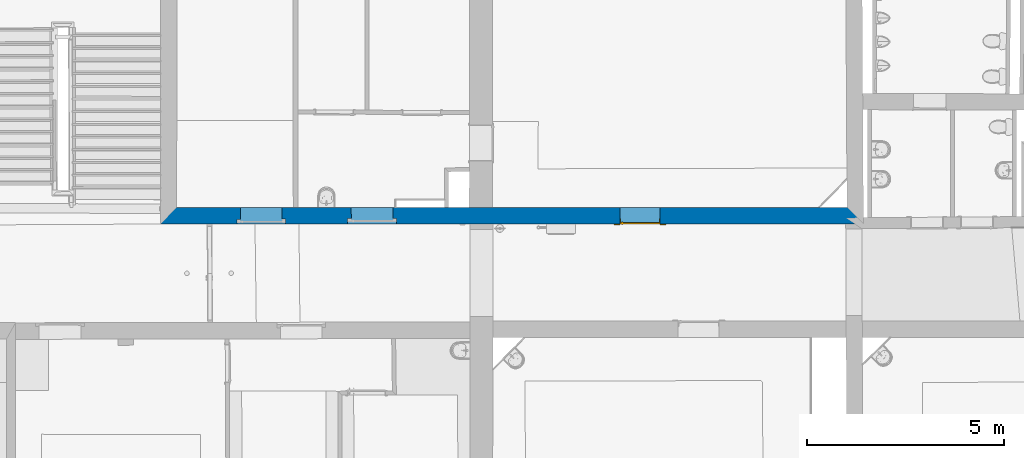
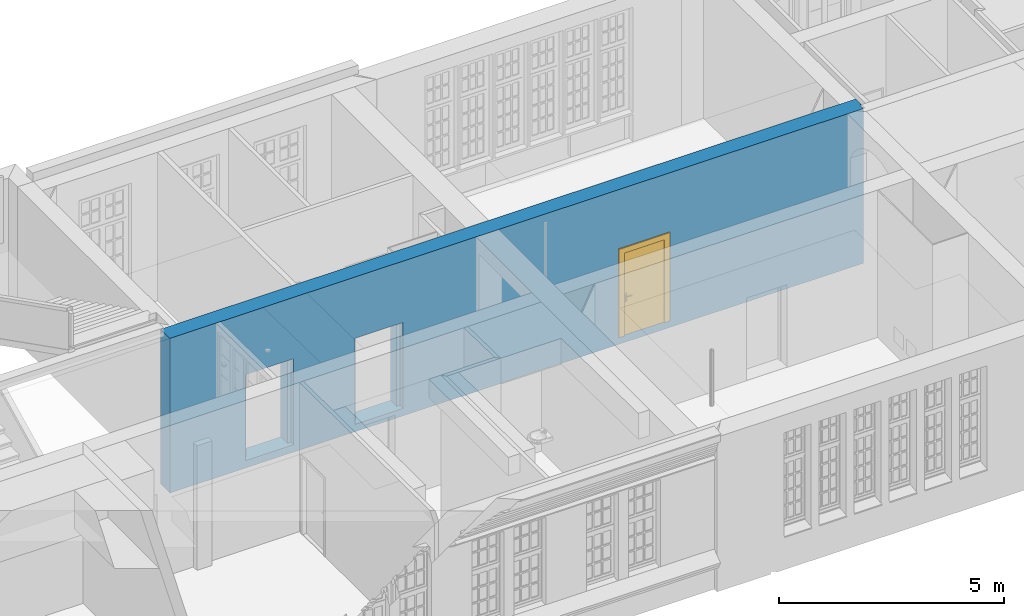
# One storey, part 44 of 90: 1 door, 1 wall, 3 openings.
"""IFC2X3 building model written with IfcOpenShell, lengths in metres."""

from ifc_helpers import new_model, entity, si_unit, converted_unit, derived_unit, money_unit, direction, frame, origin_with_axes, origin_2d_with_axis, place, context, subcontext, project, spatial, polyline, rectangle, outline, extrude, boolean, open_shell, faceted_brep, surface_model, material, type_object, element, fill, save


model = new_model("IFC2X3")

# Units and contexts
model_context = context("Model", 3, precision=1e-05, world=origin_with_axes(), true_north=direction((0.0, 1.0)))
body_context = subcontext(model_context, "Body", "Model", "MODEL_VIEW")
ifc_project = project(units=[si_unit("LENGTHUNIT", "METRE"), si_unit("AREAUNIT", "SQUARE_METRE"), si_unit("VOLUMEUNIT", "CUBIC_METRE"), converted_unit("PLANEANGLEUNIT", "DEGREE", entity("IfcPlaneAngleMeasure", 0.0174532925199), si_unit("PLANEANGLEUNIT", "RADIAN"), dimensions=[0, 0, 0, 0, 0, 0, 0]), money_unit("EUR"), converted_unit("TIMEUNIT", "Year", entity("IfcTimeMeasure", 31556926.0), si_unit("TIMEUNIT", "SECOND"), dimensions=[0, 0, 1, 0, 0, 0, 0]), si_unit("MASSUNIT", "GRAM", prefix="KILO"), si_unit("THERMODYNAMICTEMPERATUREUNIT", "DEGREE_CELSIUS"), si_unit("LUMINOUSINTENSITYUNIT", "LUMEN"), si_unit("ENERGYUNIT", "JOULE", prefix="MEGA"), derived_unit("THERMALCONDUCTANCEUNIT", [(si_unit("POWERUNIT", "WATT"), 1), (si_unit("LENGTHUNIT", "METRE"), -1), (si_unit("THERMODYNAMICTEMPERATUREUNIT", "KELVIN"), -1)]), derived_unit("SPECIFICHEATCAPACITYUNIT", [(si_unit("ENERGYUNIT", "JOULE"), 1), (si_unit("MASSUNIT", "GRAM", prefix="KILO"), -1), (si_unit("THERMODYNAMICTEMPERATUREUNIT", "KELVIN"), -1)]), derived_unit("MASSDENSITYUNIT", [(si_unit("MASSUNIT", "GRAM", prefix="KILO"), 1), (si_unit("VOLUMEUNIT", "CUBIC_METRE"), -1)])], contexts=[model_context])

# Site, building, storey
site_placement = place(None, origin_with_axes())
site = spatial("IfcSite", under=ifc_project, at=site_placement, Name="Gelände", CompositionType="ELEMENT")
building_placement = place(site_placement, origin_with_axes())
building = spatial("IfcBuilding", under=site, at=building_placement, Name="Gebäude", CompositionType="ELEMENT")
storey_placement = place(building_placement, frame((0.0, 0.0, 3.7), z_axis=(0.0, 0.0, 1.0), x_axis=(1.0, 0.0, 0.0)))
storey = spatial("IfcBuildingStorey", under=building, at=storey_placement, Name="1.OBERGESCHOSS", CompositionType="ELEMENT", Elevation=3.7)

# Wall, openings, door
ifc_material = material(Name="05_ALLGEMEIN - TRAGENDE BAUTEILE")
wall_type = type_object("IfcWallType", Name="05_ALLGEMEIN - TRAGENDE BAUTEILE 415", PredefinedType="ELEMENTEDWALL")
wall_placement = place(storey_placement, frame((-4.46533827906, 19.2762494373, -0.1), z_axis=(0.0, 0.0, 1.0), x_axis=(0.999999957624, 0.000291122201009, 0.0)))
wall = element("IfcWall", 1, at=wall_placement, inside=storey, type_object=wall_type, material=ifc_material, Name="Wand-038", ObjectType="ELEMENTEDWALL", context=body_context, shape_type="CSG", body=[
    boolean("DIFFERENCE", boolean("DIFFERENCE", extrude(outline(polyline([(-0.410000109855, 0.0), (17.4431832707, 0.0), (17.4431832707, 0.414615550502), (-0.410000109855, 0.414615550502), (-0.410000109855, 0.0)])), origin_with_axes(), (0.0, 0.0, 1.0), 4.2), faceted_brep([(-0.409696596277, 0.414615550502, 0.0), (-0.409766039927, 0.319751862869, 0.0), (-0.40959077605, 0.285260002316, 0.0), (-0.409791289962, 0.285258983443, 0.0), (-0.410000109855, 0.0, 0.0), (-0.410000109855, 0.414615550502, 0.0), (-0.409696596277, 0.414615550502, 4.2), (-0.410000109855, 0.0, 4.2), (-0.409791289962, 0.285258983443, 0.0945767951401), (-0.409766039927, 0.319751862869, 0.0945767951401), (-0.40959077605, 0.285260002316, 0.0945767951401), (-0.410000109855, 0.414615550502, 4.2)], [[[0, 1, 2, 3, 4, 5]], [[0, 6, 7, 4, 3, 8, 9, 1]], [[2, 1, 9, 10]], [[3, 2, 10, 8]], [[4, 7, 11, 5]], [[6, 0, 5, 11]], [[7, 6, 11]], [[9, 8, 10]]])), faceted_brep([(17.4022997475, 0.155036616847, 4.2), (17.4028442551, 0.0, 4.2), (17.4431832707, 0.0, 4.2), (17.4431832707, 0.414615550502, 4.2), (17.4409878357, 0.414615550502, 4.2), (17.4423609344, 0.155301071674, 4.2), (17.4028442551, 0.0, 0.0), (17.4022997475, 0.155036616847, 0.0), (17.4431832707, 0.0, 0.0), (17.4431832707, 0.414615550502, 0.0), (17.4409878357, 0.414615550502, 0.0), (17.4423609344, 0.155301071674, 0.0)], [[[0, 1, 2, 3, 4, 5]], [[6, 1, 0, 7]], [[1, 6, 8, 2]], [[2, 8, 9, 3]], [[10, 4, 3, 9]], [[5, 4, 10, 11]], [[0, 5, 11, 7]], [[11, 10, 9, 8, 6, 7]]])),
])
opening_1_placement = place(wall_placement, frame((11.7658907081, 0.0, 0.201376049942), z_axis=(0.0, 0.0, 1.0), x_axis=(1.0, 0.0, 0.0)))
opening_1 = element("IfcOpeningElement", 2, at=opening_1_placement, cuts=wall, Name="Tür-022", context=body_context, shape_type="SweptSolid", body=[
    extrude(rectangle(XDim=1.02378616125, YDim=2.250558, at=origin_2d_with_axis()), frame((0.0, 0.414615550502, 1.125279), z_axis=(0.0, 1.0, 0.0), x_axis=(1.0, 0.0, 0.0)), (0.0, 0.0, -1.0), 1.24384665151),
])
opening_2_placement = place(wall_placement, frame((4.96277781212, 0.0, 0.201), z_axis=(0.0, 0.0, 1.0), x_axis=(1.0, 0.0, 0.0)))
element("IfcOpeningElement", 3, at=opening_2_placement, cuts=wall, Name="Tür-022", context=body_context, shape_type="SweptSolid", body=[
    extrude(rectangle(XDim=1.05907517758, YDim=2.24387033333, at=origin_2d_with_axis()), frame((0.0, 0.14, 1.12193516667), z_axis=(0.0, 1.0, 0.0), x_axis=(1.0, 0.0, 0.0)), (0.0, 0.0, 1.0), 0.689231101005),
    extrude(rectangle(XDim=1.23907517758, YDim=2.33387033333, at=origin_2d_with_axis()), frame((0.0, 0.05, 1.16693516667), z_axis=(0.0, -1.0, 0.0), x_axis=(1.0, 0.0, 0.0)), (0.0, 0.0, -1.0), 0.09),
    extrude(rectangle(XDim=1.23907517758, YDim=2.33387033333, at=origin_2d_with_axis()), frame((0.0, 0.05, 1.16693516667), z_axis=(0.0, -1.0, 0.0), x_axis=(1.0, 0.0, 0.0)), (0.0, 0.0, 1.0), 0.464615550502),
])
opening_3_placement = place(wall_placement, frame((2.14649671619, 0.0, 0.201), z_axis=(0.0, 0.0, 1.0), x_axis=(1.0, 0.0, 0.0)))
element("IfcOpeningElement", 4, at=opening_3_placement, cuts=wall, Name="Tür-022", context=body_context, shape_type="SweptSolid", body=[
    extrude(rectangle(XDim=1.05907517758, YDim=2.24387033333, at=origin_2d_with_axis()), frame((0.0, 0.12, 1.12193516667), z_axis=(0.0, 1.0, 0.0), x_axis=(1.0, 0.0, 0.0)), (0.0, 0.0, 1.0), 0.709231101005),
    extrude(rectangle(XDim=1.23907517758, YDim=2.33387033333, at=origin_2d_with_axis()), frame((0.0, 0.03, 1.16693516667), z_axis=(0.0, -1.0, 0.0), x_axis=(1.0, 0.0, 0.0)), (0.0, 0.0, -1.0), 0.09),
    extrude(rectangle(XDim=1.23907517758, YDim=2.33387033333, at=origin_2d_with_axis()), frame((0.0, 0.03, 1.16693516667), z_axis=(0.0, -1.0, 0.0), x_axis=(1.0, 0.0, 0.0)), (0.0, 0.0, 1.0), 0.444615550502),
])
door_style = type_object("IfcDoorStyle", Name="Blockrahmentür 1-Fl 25", ConstructionType="NOTDEFINED", OperationType="SINGLE_SWING_LEFT", ParameterTakesPrecedence=False, Sizeable=False)
door_placement = place(opening_1_placement, frame((0.496893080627, 0.0, 0.0), z_axis=(0.0, 0.0, 1.0), x_axis=(-1.0, 0.0, 0.0)))
door = element("IfcDoor", 5, at=door_placement, inside=storey, type_object=door_style, Name="Tür-022", ObjectType="NOTDEFINED", OverallHeight=2.25056, OverallWidth=1.02379, context=body_context, shape_type="SurfaceModel", body=[
    faceted_brep([(-0.015, -0.14, 0.0), (-0.015, -0.14, 2.250558), (-0.015, -0.035, 2.250558), (-0.015, -0.035, 0.0), (0.0, -0.14, 0.0), (0.0, -0.14, 2.235558), (0.381793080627, -0.14, 2.235558), (0.496793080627, -0.14, 2.235558), (0.993786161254, -0.14, 2.235558), (0.993786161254, -0.14, 0.0), (1.00878616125, -0.14, 0.0), (1.00878616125, -0.14, 2.250558), (1.00878616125, -0.035, 2.250558), (1.00878616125, -0.035, 0.0), (0.993786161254, -0.035, 0.0), (0.993786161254, -0.035, 2.235558), (0.496793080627, -0.035, 2.235558), (0.381793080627, -0.035, 2.235558), (0.0, -0.035, 2.235558), (0.0, -0.035, 0.0)], [[[0, 1, 2, 3]], [[0, 4, 5, 6, 7, 8, 9, 10, 11, 1]], [[1, 11, 12, 2]], [[3, 2, 12, 13, 14, 15, 16, 17, 18, 19]], [[4, 0, 3, 19]], [[5, 4, 19, 18]], [[6, 5, 18, 17]], [[7, 6, 17, 16]], [[8, 7, 16, 15]], [[9, 8, 15, 14]], [[10, 9, 14, 13]], [[11, 10, 13, 12]]]),
    surface_model("IfcShellBasedSurfaceModel", [(-0.015, -0.035, 0.0), (-0.015, -0.035, 2.250558), (-0.015, 0.03, 2.250558), (-0.015, 0.03, 0.0), (1.00878616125, -0.035, 2.250558), (0.481793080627, -0.035, 2.250558), (0.396793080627, -0.035, 2.250558), (0.396793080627, 0.03, 2.250558), (0.481793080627, 0.03, 2.250558), (1.00878616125, 0.03, 2.250558), (-0.015, 0.03, 2.250558), (-0.015, -0.035, 2.250558), (1.00878616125, 0.03, 2.250558), (1.00878616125, -0.035, 0.0), (1.00878616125, 0.03, 0.0), (1.00878616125, -0.035, 2.250558)], [open_shell([[[0, 1, 2, 3]], [[4, 5, 6, 1]], [[1, 6, 7, 2]], [[7, 8, 9, 10]], [[11, 0, 3, 10]], [[4, 11, 10, 12]], [[13, 4, 12, 14]], [[15, 13, 14, 9]], [[5, 15, 9, 8]], [[6, 5, 8, 7]]])]),
    faceted_brep([(-0.16, 0.0, 0.0), (-0.16, 0.0, 2.395558), (-0.16, 0.03, 2.395558), (-0.16, 0.03, 0.0), (-0.015, 0.0, 0.0), (-0.015, 0.0, 2.250558), (1.00878616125, 0.0, 2.250558), (1.00878616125, 0.0, 0.0), (1.15378616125, 0.0, 0.0), (1.15378616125, 0.0, 2.395558), (1.15378616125, 0.03, 2.395558), (1.15378616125, 0.03, 0.0), (1.00878616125, 0.03, 0.0), (1.00878616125, 0.03, 2.250558), (-0.015, 0.03, 2.250558), (-0.015, 0.03, 0.0)], [[[0, 1, 2, 3]], [[0, 4, 5, 6, 7, 8, 9, 1]], [[1, 9, 10, 2]], [[3, 2, 10, 11, 12, 13, 14, 15]], [[4, 0, 3, 15]], [[5, 4, 15, 14]], [[6, 5, 14, 13]], [[7, 6, 13, 12]], [[8, 7, 12, 11]], [[9, 8, 11, 10]]]),
    faceted_brep([(-0.015, 0.002, 0.0), (-0.015, 0.002, 2.250558), (1.00878616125, 0.002, 2.250558), (1.00878616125, 0.002, 0.0), (-0.015, -0.035, 0.0), (-0.015, -0.035, 2.250558), (1.00878616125, -0.035, 2.250558), (1.00878616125, -0.035, 0.0)], [[[0, 1, 2, 3]], [[0, 4, 5, 1]], [[1, 5, 6, 2]], [[2, 6, 7, 3]], [[3, 7, 4, 0]], [[7, 6, 5, 4]]]),
    faceted_brep([(0.953488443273, -0.075, 1.05647213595), (0.953488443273, -0.055, 1.05647213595), (0.948786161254, -0.055, 1.058), (0.948786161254, -0.075, 1.058), (0.956394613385, -0.075, 1.05247213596), (0.956394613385, -0.055, 1.05247213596), (0.954664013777, -0.053, 1.05809016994), (0.948786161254, -0.053, 1.06), (0.944083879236, -0.055, 1.05647213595), (0.944083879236, -0.075, 1.05647213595), (0.941177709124, -0.075, 1.05247213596), (0.941177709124, -0.075, 1.04752786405), (0.944083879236, -0.075, 1.04352786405), (0.948786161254, -0.075, 1.042), (0.953488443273, -0.075, 1.04352786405), (0.956394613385, -0.075, 1.04752786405), (0.956394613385, -0.055, 1.04752786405), (0.958296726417, -0.053, 1.05309016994), (0.954664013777, -0.045, 1.05809016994), (0.948786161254, -0.045, 1.06), (0.942908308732, -0.053, 1.05809016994), (0.941177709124, -0.055, 1.05247213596), (0.941177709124, -0.055, 1.04752786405), (0.944083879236, -0.055, 1.04352786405), (0.948786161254, -0.055, 1.042), (0.953488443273, -0.055, 1.04352786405), (0.958296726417, -0.053, 1.04690983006), (0.958296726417, -0.045, 1.05309016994), (0.958296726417, -0.045, 1.04690983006), (0.954664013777, -0.045, 1.04190983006), (0.948786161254, -0.045, 1.04), (0.942908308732, -0.045, 1.04190983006), (0.939275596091, -0.045, 1.04690983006), (0.939275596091, -0.045, 1.05309016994), (0.942908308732, -0.045, 1.05809016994), (0.939275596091, -0.053, 1.05309016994), (0.939275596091, -0.053, 1.04690983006), (0.942908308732, -0.053, 1.04190983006), (0.948786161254, -0.053, 1.04), (0.954664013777, -0.053, 1.04190983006)], [[[0, 1, 2, 3]], [[4, 5, 1, 0]], [[1, 6, 7, 2]], [[3, 2, 8, 9]], [[3, 9, 10, 11, 12, 13, 14, 15, 4, 0]], [[15, 16, 5, 4]], [[5, 17, 6, 1]], [[6, 18, 19, 7]], [[2, 7, 20, 8]], [[9, 8, 21, 10]], [[10, 21, 22, 11]], [[11, 22, 23, 12]], [[12, 23, 24, 13]], [[13, 24, 25, 14]], [[14, 25, 16, 15]], [[16, 26, 17, 5]], [[17, 27, 18, 6]], [[19, 18, 27, 28, 29, 30, 31, 32, 33, 34]], [[7, 19, 34, 20]], [[8, 20, 35, 21]], [[21, 35, 36, 22]], [[22, 36, 37, 23]], [[23, 37, 38, 24]], [[24, 38, 39, 25]], [[25, 39, 26, 16]], [[26, 28, 27, 17]], [[39, 29, 28, 26]], [[38, 30, 29, 39]], [[37, 31, 30, 38]], [[36, 32, 31, 37]], [[35, 33, 32, 36]], [[20, 34, 33, 35]]]),
    faceted_brep([(0.936597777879, -0.045, 1.11759695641), (0.931986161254, -0.045, 1.11), (0.926286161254, -0.045, 1.11), (0.926286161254, -0.045, 0.89), (0.931986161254, -0.045, 0.89), (0.936597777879, -0.045, 0.882403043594), (0.9443426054, -0.045, 0.878044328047), (0.953229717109, -0.045, 0.878044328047), (0.96097454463, -0.045, 0.882403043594), (0.965586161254, -0.045, 0.89), (0.971286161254, -0.045, 0.89), (0.971286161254, -0.045, 1.11), (0.965586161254, -0.045, 1.11), (0.96097454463, -0.045, 1.11759695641), (0.953229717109, -0.045, 1.12195567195), (0.9443426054, -0.045, 1.12195567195), (0.948786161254, -0.045, 0.967425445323), (0.954161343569, -0.045, 0.965143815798), (0.95625399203, -0.045, 0.959692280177), (0.953786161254, -0.045, 0.9544), (0.953786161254, -0.045, 0.9375), (0.95232169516, -0.045, 0.933964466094), (0.948786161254, -0.045, 0.9325), (0.945250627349, -0.045, 0.933964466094), (0.943786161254, -0.045, 0.9375), (0.943786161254, -0.045, 0.9544), (0.941318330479, -0.045, 0.959692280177), (0.943410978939, -0.045, 0.965143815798), (0.936597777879, -0.035, 1.11759695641), (0.931986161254, -0.035, 1.11), (0.926286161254, -0.035, 1.11), (0.926286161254, -0.035, 0.89), (0.931986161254, -0.035, 0.89), (0.936597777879, -0.035, 0.882403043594), (0.9443426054, -0.035, 0.878044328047), (0.953229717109, -0.035, 0.878044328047), (0.96097454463, -0.035, 0.882403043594), (0.965586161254, -0.035, 0.89), (0.971286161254, -0.035, 0.89), (0.971286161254, -0.035, 1.11), (0.965586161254, -0.035, 1.11), (0.96097454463, -0.035, 1.11759695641), (0.953229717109, -0.035, 1.12195567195), (0.9443426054, -0.035, 1.12195567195), (0.948786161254, -0.035, 0.967425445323), (0.954161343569, -0.035, 0.965143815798), (0.95625399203, -0.035, 0.959692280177), (0.953786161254, -0.035, 0.9544), (0.953786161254, -0.035, 0.9375), (0.95232169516, -0.035, 0.933964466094), (0.948786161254, -0.035, 0.9325), (0.945250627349, -0.035, 0.933964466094), (0.943786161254, -0.035, 0.9375), (0.943786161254, -0.035, 0.9544), (0.941318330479, -0.035, 0.959692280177), (0.943410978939, -0.035, 0.965143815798)], [[[0, 1, 2, 3, 4, 5, 6, 7, 8, 9, 10, 11, 12, 13, 14, 15], [16, 17, 18, 19, 20, 21, 22, 23, 24, 25, 26, 27]], [[0, 28, 29, 1]], [[1, 29, 30, 2]], [[2, 30, 31, 3]], [[3, 31, 32, 4]], [[4, 32, 33, 5]], [[5, 33, 34, 6]], [[6, 34, 35, 7]], [[7, 35, 36, 8]], [[8, 36, 37, 9]], [[9, 37, 38, 10]], [[10, 38, 39, 11]], [[11, 39, 40, 12]], [[12, 40, 41, 13]], [[13, 41, 42, 14]], [[14, 42, 43, 15]], [[15, 43, 28, 0]], [[16, 44, 45, 17]], [[17, 45, 46, 18]], [[18, 46, 47, 19]], [[47, 48, 20, 19]], [[21, 20, 48, 49]], [[22, 21, 49, 50]], [[23, 22, 50, 51]], [[24, 23, 51, 52]], [[25, 24, 52, 53]], [[25, 53, 54, 26]], [[26, 54, 55, 27]], [[27, 55, 44, 16]], [[32, 31, 30, 29, 28, 43, 42, 41, 40, 39, 38, 37, 36, 35, 34, 33], [46, 45, 44, 55, 54, 53, 52, 51, 50, 49, 48, 47]]]),
    faceted_brep([(0.834533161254, -0.075, 1.057158), (0.834531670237, -0.075, 1.05719388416), (0.834531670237, -0.09, 1.05719388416), (0.834533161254, -0.09, 1.057158), (0.861560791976, -0.075, 1.06432652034), (0.889388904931, -0.075, 1.06706086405), (0.917294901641, -0.075, 1.06529002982), (0.944554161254, -0.075, 1.05906), (0.950956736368, -0.075, 1.05976125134), (0.956458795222, -0.075, 1.05641280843), (0.958777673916, -0.075, 1.05040385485), (0.956951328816, -0.075, 1.04422735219), (0.951737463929, -0.075, 1.04044577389), (0.945299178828, -0.075, 1.04062800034), (0.940307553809, -0.075, 1.04469843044), (0.940328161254, -0.075, 1.044666), (0.915039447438, -0.075, 1.05019878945), (0.8891969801, -0.075, 1.05171460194), (0.863434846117, -0.075, 1.04917624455), (0.838385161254, -0.075, 1.042646), (0.832841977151, -0.075, 1.04356849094), (0.829480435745, -0.075, 1.04807159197), (0.83017200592, -0.075, 1.05364829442), (0.83017200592, -0.09, 1.05364829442), (0.829480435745, -0.09, 1.04807159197), (0.832841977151, -0.09, 1.04356849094), (0.838385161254, -0.09, 1.042646), (0.863434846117, -0.09, 1.04917624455), (0.8891969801, -0.09, 1.05171460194), (0.915039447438, -0.09, 1.05019878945), (0.940328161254, -0.09, 1.044666), (0.940307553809, -0.09, 1.04469843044), (0.945299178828, -0.09, 1.04062800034), (0.951737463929, -0.09, 1.04044577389), (0.956951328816, -0.09, 1.04422735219), (0.958777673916, -0.09, 1.05040385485), (0.956458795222, -0.09, 1.05641280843), (0.950956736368, -0.09, 1.05976125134), (0.944554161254, -0.09, 1.05906), (0.917294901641, -0.09, 1.06529002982), (0.889388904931, -0.09, 1.06706086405), (0.861560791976, -0.09, 1.06432652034)], [[[0, 1, 2, 3]], [[0, 4, 5, 6, 7, 8, 9, 10, 11, 12, 13, 14, 15, 16, 17, 18, 19, 20, 21, 22, 1]], [[1, 22, 23, 2]], [[3, 2, 23, 24, 25, 26, 27, 28, 29, 30, 31, 32, 33, 34, 35, 36, 37, 38, 39, 40, 41]], [[4, 0, 3, 41]], [[5, 4, 41, 40]], [[6, 5, 40, 39]], [[7, 6, 39, 38]], [[8, 7, 38, 37]], [[9, 8, 37, 36]], [[10, 9, 36, 35]], [[11, 10, 35, 34]], [[12, 11, 34, 33]], [[13, 12, 33, 32]], [[14, 13, 32, 31]], [[15, 14, 31, 30]], [[16, 15, 30, 29]], [[17, 16, 29, 28]], [[18, 17, 28, 27]], [[19, 18, 27, 26]], [[20, 19, 26, 25]], [[21, 20, 25, 24]], [[22, 21, 24, 23]]]),
    faceted_brep([(0.953488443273, 0.042, 1.05647213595), (0.948786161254, 0.042, 1.058), (0.948786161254, 0.022, 1.058), (0.953488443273, 0.022, 1.05647213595), (0.956394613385, 0.042, 1.05247213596), (0.956394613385, 0.042, 1.04752786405), (0.953488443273, 0.042, 1.04352786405), (0.948786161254, 0.042, 1.042), (0.944083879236, 0.042, 1.04352786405), (0.941177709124, 0.042, 1.04752786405), (0.941177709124, 0.042, 1.05247213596), (0.944083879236, 0.042, 1.05647213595), (0.944083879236, 0.022, 1.05647213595), (0.948786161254, 0.02, 1.06), (0.954664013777, 0.02, 1.05809016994), (0.956394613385, 0.022, 1.05247213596), (0.956394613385, 0.022, 1.04752786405), (0.953488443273, 0.022, 1.04352786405), (0.948786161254, 0.022, 1.042), (0.944083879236, 0.022, 1.04352786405), (0.941177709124, 0.022, 1.04752786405), (0.941177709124, 0.022, 1.05247213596), (0.942908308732, 0.02, 1.05809016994), (0.948786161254, 0.012, 1.06), (0.954664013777, 0.012, 1.05809016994), (0.958296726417, 0.02, 1.05309016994), (0.958296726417, 0.02, 1.04690983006), (0.954664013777, 0.02, 1.04190983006), (0.948786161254, 0.02, 1.04), (0.942908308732, 0.02, 1.04190983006), (0.939275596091, 0.02, 1.04690983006), (0.939275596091, 0.02, 1.05309016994), (0.942908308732, 0.012, 1.05809016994), (0.939275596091, 0.012, 1.05309016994), (0.939275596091, 0.012, 1.04690983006), (0.942908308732, 0.012, 1.04190983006), (0.948786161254, 0.012, 1.04), (0.954664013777, 0.012, 1.04190983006), (0.958296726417, 0.012, 1.04690983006), (0.958296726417, 0.012, 1.05309016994)], [[[0, 1, 2, 3]], [[1, 0, 4, 5, 6, 7, 8, 9, 10, 11]], [[1, 11, 12, 2]], [[3, 2, 13, 14]], [[4, 0, 3, 15]], [[5, 4, 15, 16]], [[6, 5, 16, 17]], [[7, 6, 17, 18]], [[8, 7, 18, 19]], [[9, 8, 19, 20]], [[10, 9, 20, 21]], [[11, 10, 21, 12]], [[2, 12, 22, 13]], [[14, 13, 23, 24]], [[15, 3, 14, 25]], [[16, 15, 25, 26]], [[17, 16, 26, 27]], [[18, 17, 27, 28]], [[19, 18, 28, 29]], [[20, 19, 29, 30]], [[21, 20, 30, 31]], [[12, 21, 31, 22]], [[13, 22, 32, 23]], [[23, 32, 33, 34, 35, 36, 37, 38, 39, 24]], [[25, 14, 24, 39]], [[26, 25, 39, 38]], [[27, 26, 38, 37]], [[28, 27, 37, 36]], [[29, 28, 36, 35]], [[30, 29, 35, 34]], [[31, 30, 34, 33]], [[22, 31, 33, 32]]]),
    faceted_brep([(0.936597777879, 0.002, 1.11759695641), (0.931986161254, 0.002, 1.11), (0.926286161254, 0.002, 1.11), (0.926286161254, 0.002, 0.89), (0.931986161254, 0.002, 0.89), (0.936597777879, 0.002, 0.882403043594), (0.9443426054, 0.002, 0.878044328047), (0.953229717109, 0.002, 0.878044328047), (0.96097454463, 0.002, 0.882403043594), (0.965586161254, 0.002, 0.89), (0.971286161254, 0.002, 0.89), (0.971286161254, 0.002, 1.11), (0.965586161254, 0.002, 1.11), (0.96097454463, 0.002, 1.11759695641), (0.953229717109, 0.002, 1.12195567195), (0.9443426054, 0.002, 1.12195567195), (0.948786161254, 0.002, 0.967425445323), (0.954161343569, 0.002, 0.965143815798), (0.95625399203, 0.002, 0.959692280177), (0.953786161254, 0.002, 0.9544), (0.953786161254, 0.002, 0.9375), (0.95232169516, 0.002, 0.933964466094), (0.948786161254, 0.002, 0.9325), (0.945250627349, 0.002, 0.933964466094), (0.943786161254, 0.002, 0.9375), (0.943786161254, 0.002, 0.9544), (0.941318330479, 0.002, 0.959692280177), (0.943410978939, 0.002, 0.965143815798), (0.936597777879, 0.012, 1.11759695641), (0.931986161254, 0.012, 1.11), (0.926286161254, 0.012, 1.11), (0.926286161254, 0.012, 0.89), (0.931986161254, 0.012, 0.89), (0.936597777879, 0.012, 0.882403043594), (0.9443426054, 0.012, 0.878044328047), (0.953229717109, 0.012, 0.878044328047), (0.96097454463, 0.012, 0.882403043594), (0.965586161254, 0.012, 0.89), (0.971286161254, 0.012, 0.89), (0.971286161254, 0.012, 1.11), (0.965586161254, 0.012, 1.11), (0.96097454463, 0.012, 1.11759695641), (0.953229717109, 0.012, 1.12195567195), (0.9443426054, 0.012, 1.12195567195), (0.948786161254, 0.012, 0.967425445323), (0.954161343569, 0.012, 0.965143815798), (0.95625399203, 0.012, 0.959692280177), (0.953786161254, 0.012, 0.9544), (0.953786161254, 0.012, 0.9375), (0.95232169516, 0.012, 0.933964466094), (0.948786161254, 0.012, 0.9325), (0.945250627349, 0.012, 0.933964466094), (0.943786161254, 0.012, 0.9375), (0.943786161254, 0.012, 0.9544), (0.941318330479, 0.012, 0.959692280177), (0.943410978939, 0.012, 0.965143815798)], [[[0, 1, 2, 3, 4, 5, 6, 7, 8, 9, 10, 11, 12, 13, 14, 15], [16, 17, 18, 19, 20, 21, 22, 23, 24, 25, 26, 27]], [[28, 29, 1, 0]], [[29, 30, 2, 1]], [[30, 31, 3, 2]], [[31, 32, 4, 3]], [[32, 33, 5, 4]], [[33, 34, 6, 5]], [[34, 35, 7, 6]], [[35, 36, 8, 7]], [[36, 37, 9, 8]], [[37, 38, 10, 9]], [[38, 39, 11, 10]], [[39, 40, 12, 11]], [[40, 41, 13, 12]], [[41, 42, 14, 13]], [[42, 43, 15, 14]], [[43, 28, 0, 15]], [[16, 44, 45, 17]], [[17, 45, 46, 18]], [[18, 46, 47, 19]], [[47, 48, 20, 19]], [[21, 20, 48, 49]], [[22, 21, 49, 50]], [[23, 22, 50, 51]], [[24, 23, 51, 52]], [[25, 24, 52, 53]], [[25, 53, 54, 26]], [[26, 54, 55, 27]], [[27, 55, 44, 16]], [[32, 31, 30, 29, 28, 43, 42, 41, 40, 39, 38, 37, 36, 35, 34, 33], [46, 45, 44, 55, 54, 53, 52, 51, 50, 49, 48, 47]]]),
    faceted_brep([(0.834533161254, 0.042, 1.057158), (0.834533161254, 0.057, 1.057158), (0.834531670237, 0.057, 1.05719388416), (0.834531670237, 0.042, 1.05719388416), (0.861560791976, 0.042, 1.06432652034), (0.861560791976, 0.057, 1.06432652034), (0.889388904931, 0.057, 1.06706086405), (0.917294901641, 0.057, 1.06529002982), (0.944554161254, 0.057, 1.05906), (0.950956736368, 0.057, 1.05976125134), (0.956458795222, 0.057, 1.05641280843), (0.958777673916, 0.057, 1.05040385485), (0.956951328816, 0.057, 1.04422735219), (0.951737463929, 0.057, 1.04044577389), (0.945299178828, 0.057, 1.04062800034), (0.940307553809, 0.057, 1.04469843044), (0.940328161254, 0.057, 1.044666), (0.915039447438, 0.057, 1.05019878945), (0.8891969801, 0.057, 1.05171460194), (0.863434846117, 0.057, 1.04917624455), (0.838385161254, 0.057, 1.042646), (0.832841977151, 0.057, 1.04356849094), (0.829480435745, 0.057, 1.04807159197), (0.83017200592, 0.057, 1.05364829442), (0.83017200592, 0.042, 1.05364829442), (0.829480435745, 0.042, 1.04807159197), (0.832841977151, 0.042, 1.04356849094), (0.838385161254, 0.042, 1.042646), (0.863434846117, 0.042, 1.04917624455), (0.8891969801, 0.042, 1.05171460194), (0.915039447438, 0.042, 1.05019878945), (0.940328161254, 0.042, 1.044666), (0.940307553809, 0.042, 1.04469843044), (0.945299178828, 0.042, 1.04062800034), (0.951737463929, 0.042, 1.04044577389), (0.956951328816, 0.042, 1.04422735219), (0.958777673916, 0.042, 1.05040385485), (0.956458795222, 0.042, 1.05641280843), (0.950956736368, 0.042, 1.05976125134), (0.944554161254, 0.042, 1.05906), (0.917294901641, 0.042, 1.06529002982), (0.889388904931, 0.042, 1.06706086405)], [[[0, 1, 2, 3]], [[4, 5, 1, 0]], [[1, 5, 6, 7, 8, 9, 10, 11, 12, 13, 14, 15, 16, 17, 18, 19, 20, 21, 22, 23, 2]], [[3, 2, 23, 24]], [[0, 3, 24, 25, 26, 27, 28, 29, 30, 31, 32, 33, 34, 35, 36, 37, 38, 39, 40, 41, 4]], [[41, 6, 5, 4]], [[40, 7, 6, 41]], [[39, 8, 7, 40]], [[38, 9, 8, 39]], [[37, 10, 9, 38]], [[36, 11, 10, 37]], [[35, 12, 11, 36]], [[34, 13, 12, 35]], [[33, 14, 13, 34]], [[32, 15, 14, 33]], [[31, 16, 15, 32]], [[30, 17, 16, 31]], [[29, 18, 17, 30]], [[28, 19, 18, 29]], [[27, 20, 19, 28]], [[26, 21, 20, 27]], [[25, 22, 21, 26]], [[24, 23, 22, 25]]]),
])
fill(opening_1, door)

save(model, "model.ifc")
